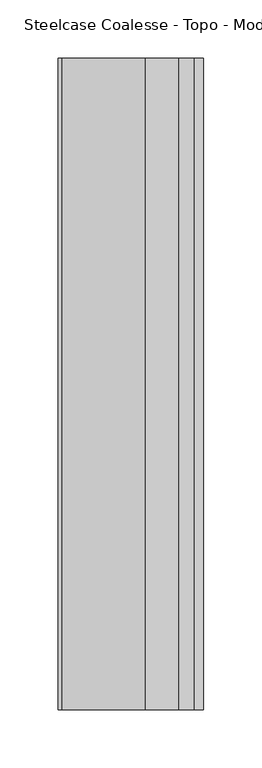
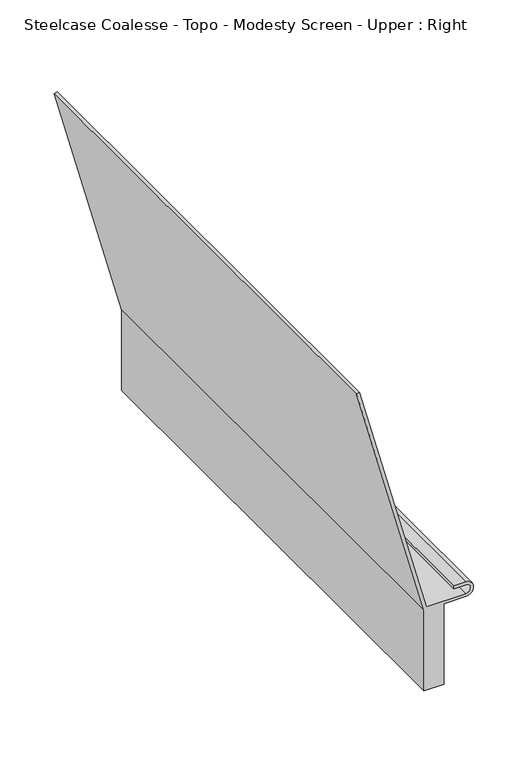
"""IFC4 building model written with IfcOpenShell, lengths in millimetres: furniture geometry, Steelcase Coalesse - Topo - Modesty Screen - Upper : Right."""

from ifc_helpers import new_model, si_unit, frame, origin, place, context, project, spatial, polyline, circle_curve, source, transform, mapped, element, save
from ifc_brep_helpers import plane_surface, cylinder_surface, revolved_surface, advanced_brep


def steelcase_coalesse_topo_modesty_screen_upper_right_8f536726(model_context):
    return source(origin(), model_context, "Body", "AdvancedBrep", [
        advanced_brep(
        [(-20.9527908, 0.0, 706.6280165), (-20.9527908, 0.0, 797.5599661), (-93.057692, 0.0, 1066.6595289), (-89.9910187, 0.0, 1067.4812811), (-18.5163116, 0.0, 800.7349903), (23.497403, 0.0, 800.7349903), (23.4834028, 0.0, 810.8949806), (10.7975967, 0.0, 810.8949806), (10.7975967, 0.0, 814.0700048), (23.497403, 0.0, 814.0700048), (23.4974344, 0.0, 797.56), (0.0023254, 0.0, 797.5599661), (0.0023254, 0.0, 706.6280165), (-20.9527908, -558.8, 706.6280165), (0.0023254, -558.8, 706.6280165), (0.0023254, -558.8, 797.5599661), (23.497403, -558.8, 797.5599661), (23.4974344, -558.8, 814.07), (10.7975967, -558.8, 814.0700048), (10.7975967, -558.8, 810.8949806), (23.4834028, -558.8, 810.8949806), (23.4974344, -558.8, 800.735), (-18.5163116, -558.8, 800.7349903), (-89.9910187, -558.8, 1067.4812811), (-93.057692, -558.8, 1066.6595289), (-20.9527908, -558.8, 797.5599661)],
        [
            (0, 1),
            (1, 2),
            (2, 3),
            (3, 4),
            (4, 5),
            (5, 6, circle_curve(frame((23.4974344, 0.0, 805.815), z_axis=(0.0, -1.0, 0.0), x_axis=(0.0, 0.0, 1.0)), 5.08)),
            (6, 7),
            (7, 8),
            (8, 9),
            (9, 10, circle_curve(frame((23.4974344, 0.0, 805.815), z_axis=(0.0, 1.0, 0.0), x_axis=(0.0, 0.0, 1.0)), 8.255)),
            (10, 11),
            (11, 12),
            (12, 0),
            (13, 14),
            (14, 15),
            (15, 16),
            (16, 17, circle_curve(frame((23.4974344, -558.8, 805.815), z_axis=(0.0, -1.0, 0.0), x_axis=(0.0, 0.0, 1.0)), 8.255)),
            (17, 18),
            (18, 19),
            (19, 20),
            (20, 21, circle_curve(frame((23.4974344, -558.8, 805.815), z_axis=(0.0, 1.0, 0.0), x_axis=(0.0, 0.0, 1.0)), 5.08)),
            (21, 22),
            (22, 23),
            (23, 24),
            (24, 25),
            (25, 13),
            (0, 13),
            (25, 1),
            (24, 2),
            (23, 3),
            (22, 4),
            (21, 5),
            (20, 6),
            (19, 7),
            (18, 8),
            (17, 9),
            (16, 10),
            (15, 11),
            (14, 12),
        ],
        [
            plane_surface(frame((-20.9527908, 0.0, 797.5599661), z_axis=(0.0, 1.0, 0.0), x_axis=(0.0, 0.0, 1.0))),
            plane_surface(frame((-20.9527908, -558.8, 797.5599661), z_axis=(0.0, -1.0, 0.0), x_axis=(0.0, 0.0, -1.0))),
            plane_surface(frame((-20.9527908, 0.0, 706.6280165), z_axis=(-1.0, 0.0, 0.0), x_axis=(0.0, -1.0, 0.0))),
            plane_surface(frame((-20.9527908, 0.0, 797.5599661), z_axis=(-0.9659259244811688, 0.0, -0.25881867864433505), x_axis=(0.0, -1.0, 0.0))),
            plane_surface(frame((-93.057692, 0.0, 1066.6595289), z_axis=(-0.25883066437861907, 0.0, 0.9659227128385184), x_axis=(0.0, -1.0, 0.0))),
            plane_surface(frame((-89.9910187, 0.0, 1067.4812811), z_axis=(0.9659255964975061, 0.0, 0.2588199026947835), x_axis=(0.0, -1.0, 0.0))),
            plane_surface(frame((-18.5163116, 0.0, 800.7349903), z_axis=(0.0, 0.0, 1.0), x_axis=(0.0, -1.0, 0.0))),
            revolved_surface(polyline([(23.4974344, -558.8, 810.8950000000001), (23.4974344, 0.0, 810.8950000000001)]), (23.4974344, -558.8, 805.815), (0.0, -1.0, 0.0)),
            plane_surface(frame((23.4834028, 0.0, 810.8949806), z_axis=(0.0, 0.0, -1.0), x_axis=(0.0, -1.0, 0.0))),
            plane_surface(frame((10.7975967, 0.0, 810.8949806), z_axis=(-1.0, 0.0, 0.0), x_axis=(0.0, -1.0, 0.0))),
            plane_surface(frame((10.7975967, 0.0, 814.0700048), z_axis=(0.0, 0.0, 1.0), x_axis=(0.0, -1.0, 0.0))),
            cylinder_surface(frame((23.4974344, -558.8, 805.815), z_axis=(0.0, 1.0, 0.0), x_axis=(0.0, 0.0, 1.0)), 8.255),
            plane_surface(frame((23.497403, 0.0, 797.5599661), z_axis=(0.0, 0.0, -1.0), x_axis=(0.0, -1.0, 0.0))),
            plane_surface(frame((0.0023254, 0.0, 797.5599661), z_axis=(1.0, 0.0, 0.0), x_axis=(0.0, -1.0, 0.0))),
            plane_surface(frame((0.0023254, 0.0, 706.6280165), z_axis=(0.0, 0.0, -1.0), x_axis=(0.0, -1.0, 0.0))),
        ],
        [
            (0, [[1, 2, 3, 4, 5, 6, 7, 8, 9, 10, 11, 12, 13]]),
            (1, [[14, 15, 16, 17, 18, 19, 20, 21, 22, 23, 24, 25, 26]]),
            (2, [[-1, 27, -26, 28]]),
            (3, [[-2, -28, -25, 29]]),
            (4, [[-3, -29, -24, 30]]),
            (5, [[-4, -30, -23, 31]]),
            (6, [[-5, -31, -22, 32]]),
            (7, [[-6, -32, -21, 33]]),
            (8, [[-7, -33, -20, 34]]),
            (9, [[-8, -34, -19, 35]]),
            (10, [[-9, -35, -18, 36]]),
            (11, [[-10, -36, -17, 37]]),
            (12, [[-11, -37, -16, 38]]),
            (13, [[-12, -38, -15, 39]]),
            (14, [[-13, -39, -14, -27]]),
        ],
    ),
    ])


if __name__ == "__main__":
    model = new_model("IFC4")
    model_context = context("Model", 3, world=origin())
    ifc_project = project(units=[si_unit("LENGTHUNIT", "METRE", prefix="MILLI")], contexts=[model_context])
    site = spatial("IfcSite", under=ifc_project)
    building = spatial("IfcBuilding", under=site)
    placement = place(None, origin())
    steelcase_coalesse_topo_modesty_screen_upper_right_shape = steelcase_coalesse_topo_modesty_screen_upper_right_8f536726(model_context)
    element("IfcFurniture", 1, ObjectType="Steelcase Coalesse - Topo - Modesty Screen - Upper : Right", at=placement, inside=building, context=model_context, shape_type="MappedRepresentation", body=[
        mapped(steelcase_coalesse_topo_modesty_screen_upper_right_shape, transform((0.0, 0.0, 0.0), x_axis=(1.0, 0.0, 0.0), y_axis=(0.0, 1.0, 0.0), z_axis=(0.0, 0.0, 1.0))),
    ])
    save(model, "model.ifc")
